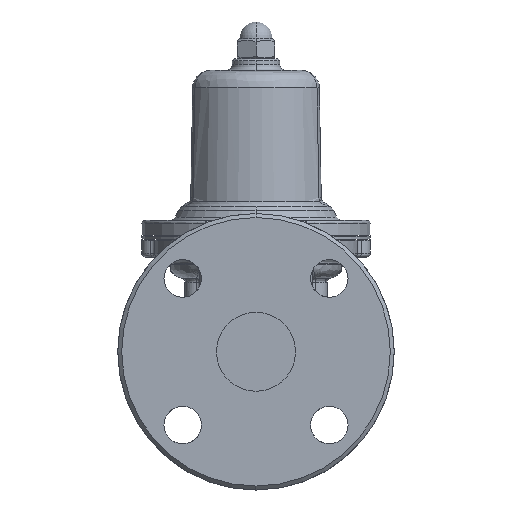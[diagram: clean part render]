
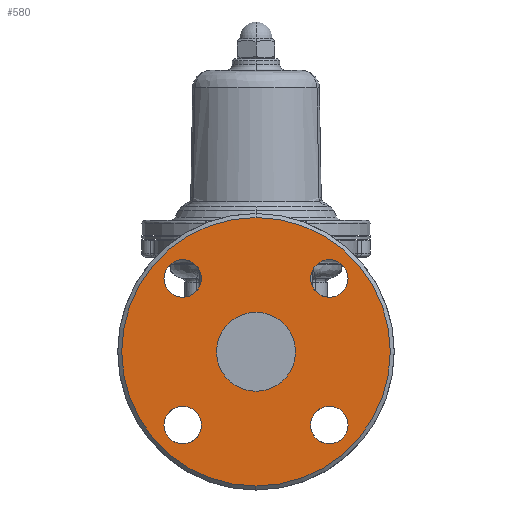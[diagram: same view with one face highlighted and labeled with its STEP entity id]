
A CAD part, left-side view. The second image highlights one B-rep face of the part: STEP entity #580.
In plain terms, the highlighted planar face has unit normal (-1, 0, 0).
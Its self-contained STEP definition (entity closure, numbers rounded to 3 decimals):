
#580=ADVANCED_FACE('',(#4300,#4301,#4302,#4303,#4304,#4305),#4299,.F.);
#4299=PLANE('',#12828);
#4300=FACE_OUTER_BOUND('',#12829,.T.);
#4301=FACE_BOUND('',#12830,.T.);
#4302=FACE_BOUND('',#12831,.T.);
#4303=FACE_BOUND('',#12832,.T.);
#4304=FACE_BOUND('',#12833,.T.);
#4305=FACE_BOUND('',#12834,.T.);
#12825=CARTESIAN_POINT('',(-109.,-127.779,78.));
#12826=DIRECTION('',(1.,0.,0.));
#12827=DIRECTION('',(0.,0.,-1.));
#12828=AXIS2_PLACEMENT_3D('',#12825,#12826,#12827);
#12829=EDGE_LOOP('',(#16151,#16152));
#12830=EDGE_LOOP('',(#16153,#16154));
#12831=EDGE_LOOP('',(#16155,#16156));
#12832=EDGE_LOOP('',(#16157,#16158));
#12833=EDGE_LOOP('',(#16159,#16160));
#12834=EDGE_LOOP('',(#16161,#16162));
#16151=ORIENTED_EDGE('',*,*,#17800,.T.);
#16152=ORIENTED_EDGE('',*,*,#17801,.T.);
#16153=ORIENTED_EDGE('',*,*,#17802,.T.);
#16154=ORIENTED_EDGE('',*,*,#17803,.T.);
#16155=ORIENTED_EDGE('',*,*,#17804,.T.);
#16156=ORIENTED_EDGE('',*,*,#17805,.T.);
#16157=ORIENTED_EDGE('',*,*,#17806,.T.);
#16158=ORIENTED_EDGE('',*,*,#17807,.T.);
#16159=ORIENTED_EDGE('',*,*,#17808,.T.);
#16160=ORIENTED_EDGE('',*,*,#17809,.T.);
#16161=ORIENTED_EDGE('',*,*,#17810,.F.);
#16162=ORIENTED_EDGE('',*,*,#17811,.F.);
#17800=EDGE_CURVE('',#24124,#24125,#24126,.T.);
#17801=EDGE_CURVE('',#24125,#24124,#24132,.T.);
#17802=EDGE_CURVE('',#24138,#24139,#24140,.T.);
#17803=EDGE_CURVE('',#24139,#24138,#24146,.T.);
#17804=EDGE_CURVE('',#24152,#24153,#24154,.T.);
#17805=EDGE_CURVE('',#24153,#24152,#24160,.T.);
#17806=EDGE_CURVE('',#24166,#24167,#24168,.T.);
#17807=EDGE_CURVE('',#24167,#24166,#24174,.T.);
#17808=EDGE_CURVE('',#24180,#24181,#24182,.T.);
#17809=EDGE_CURVE('',#24181,#24180,#24188,.T.);
#17810=EDGE_CURVE('',#24194,#24195,#24196,.T.);
#17811=EDGE_CURVE('',#24195,#24194,#24202,.T.);
#24124=VERTEX_POINT('',#32246);
#24125=VERTEX_POINT('',#32247);
#24126=CIRCLE('',#32251,68.);
#24132=CIRCLE('',#32255,68.);
#24138=VERTEX_POINT('',#32256);
#24139=VERTEX_POINT('',#32257);
#24140=CIRCLE('',#32261,9.5);
#24146=CIRCLE('',#32265,9.5);
#24152=VERTEX_POINT('',#32266);
#24153=VERTEX_POINT('',#32267);
#24154=CIRCLE('',#32271,9.5);
#24160=CIRCLE('',#32275,9.5);
#24166=VERTEX_POINT('',#32276);
#24167=VERTEX_POINT('',#32277);
#24168=CIRCLE('',#32281,9.5);
#24174=CIRCLE('',#32285,9.5);
#24180=VERTEX_POINT('',#32286);
#24181=VERTEX_POINT('',#32287);
#24182=CIRCLE('',#32291,9.5);
#24188=CIRCLE('',#32295,9.5);
#24194=VERTEX_POINT('',#32296);
#24195=VERTEX_POINT('',#32297);
#24196=CIRCLE('',#32301,20.);
#24202=CIRCLE('',#32305,20.);
#32246=CARTESIAN_POINT('',(-109.,0.,68.));
#32247=CARTESIAN_POINT('',(-109.,0.,-68.));
#32248=CARTESIAN_POINT('',(-109.,0.,0.));
#32249=DIRECTION('',(-1.,0.,0.));
#32250=DIRECTION('',(0.,0.,1.));
#32251=AXIS2_PLACEMENT_3D('',#32248,#32249,#32250);
#32252=CARTESIAN_POINT('',(-109.,0.,0.));
#32253=DIRECTION('',(-1.,0.,0.));
#32254=DIRECTION('',(0.,0.,1.));
#32255=AXIS2_PLACEMENT_3D('',#32252,#32253,#32254);
#32256=CARTESIAN_POINT('',(-109.,-37.123,46.623));
#32257=CARTESIAN_POINT('',(-109.,-37.123,27.623));
#32258=CARTESIAN_POINT('',(-109.,-37.123,37.123));
#32259=DIRECTION('',(1.,0.,0.));
#32260=DIRECTION('',(0.,0.,1.));
#32261=AXIS2_PLACEMENT_3D('',#32258,#32259,#32260);
#32262=CARTESIAN_POINT('',(-109.,-37.123,37.123));
#32263=DIRECTION('',(1.,0.,0.));
#32264=DIRECTION('',(0.,0.,1.));
#32265=AXIS2_PLACEMENT_3D('',#32262,#32263,#32264);
#32266=CARTESIAN_POINT('',(-109.,37.123,46.623));
#32267=CARTESIAN_POINT('',(-109.,37.123,27.623));
#32268=CARTESIAN_POINT('',(-109.,37.123,37.123));
#32269=DIRECTION('',(1.,0.,0.));
#32270=DIRECTION('',(0.,0.,1.));
#32271=AXIS2_PLACEMENT_3D('',#32268,#32269,#32270);
#32272=CARTESIAN_POINT('',(-109.,37.123,37.123));
#32273=DIRECTION('',(1.,0.,0.));
#32274=DIRECTION('',(0.,0.,1.));
#32275=AXIS2_PLACEMENT_3D('',#32272,#32273,#32274);
#32276=CARTESIAN_POINT('',(-109.,37.123,-27.623));
#32277=CARTESIAN_POINT('',(-109.,37.123,-46.623));
#32278=CARTESIAN_POINT('',(-109.,37.123,-37.123));
#32279=DIRECTION('',(1.,0.,0.));
#32280=DIRECTION('',(0.,0.,1.));
#32281=AXIS2_PLACEMENT_3D('',#32278,#32279,#32280);
#32282=CARTESIAN_POINT('',(-109.,37.123,-37.123));
#32283=DIRECTION('',(1.,0.,0.));
#32284=DIRECTION('',(0.,0.,1.));
#32285=AXIS2_PLACEMENT_3D('',#32282,#32283,#32284);
#32286=CARTESIAN_POINT('',(-109.,-37.123,-27.623));
#32287=CARTESIAN_POINT('',(-109.,-37.123,-46.623));
#32288=CARTESIAN_POINT('',(-109.,-37.123,-37.123));
#32289=DIRECTION('',(1.,0.,0.));
#32290=DIRECTION('',(0.,0.,1.));
#32291=AXIS2_PLACEMENT_3D('',#32288,#32289,#32290);
#32292=CARTESIAN_POINT('',(-109.,-37.123,-37.123));
#32293=DIRECTION('',(1.,0.,0.));
#32294=DIRECTION('',(0.,0.,1.));
#32295=AXIS2_PLACEMENT_3D('',#32292,#32293,#32294);
#32296=CARTESIAN_POINT('',(-109.,0.,20.));
#32297=CARTESIAN_POINT('',(-109.,0.,-20.));
#32298=CARTESIAN_POINT('',(-109.,0.,0.));
#32299=DIRECTION('',(-1.,0.,0.));
#32300=DIRECTION('',(0.,0.,-1.));
#32301=AXIS2_PLACEMENT_3D('',#32298,#32299,#32300);
#32302=CARTESIAN_POINT('',(-109.,0.,0.));
#32303=DIRECTION('',(-1.,0.,0.));
#32304=DIRECTION('',(0.,0.,-1.));
#32305=AXIS2_PLACEMENT_3D('',#32302,#32303,#32304);
